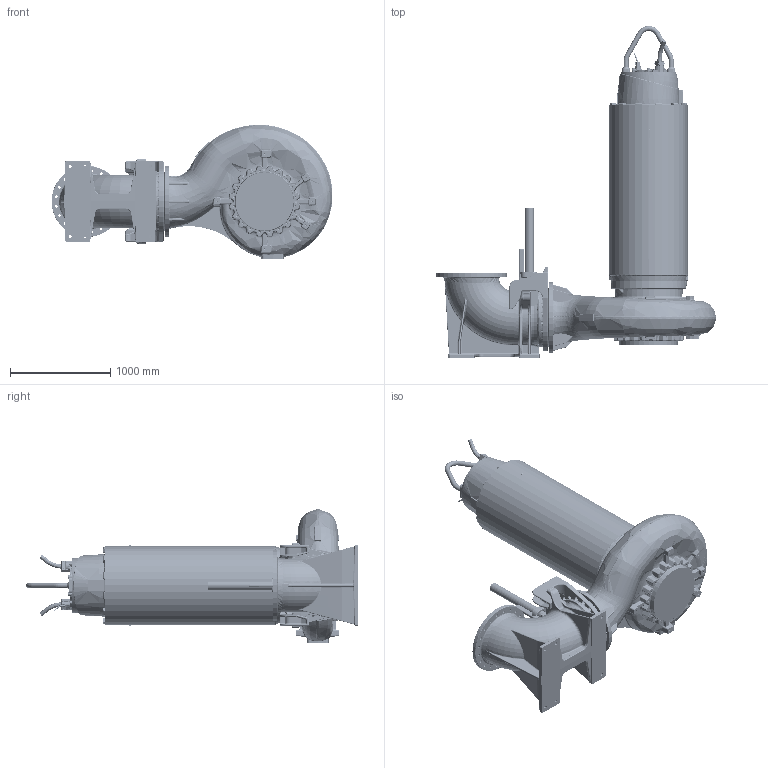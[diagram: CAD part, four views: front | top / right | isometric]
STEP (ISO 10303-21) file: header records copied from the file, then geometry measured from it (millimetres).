
FILE_DESCRIPTION (( 'STEP AP214' ), '1' );
FILE_NAME ('PE7_XFP500U-CH3_WET_E.STEP', '2017-04-03T07:23:00', ( '' ), ( '' ), 'SwSTEP 2.0', 'SolidWorks 2017', '' );
FILE_SCHEMA (( 'AUTOMOTIVE_DESIGN' ));
Length unit declared in the file: millimetre
Products named in the file (1): PE7_XFP500U-CH3_WET_E
Bounding box: 2801.98 x 3310.35 x 1338.61 mm (x, y, z)
Volume: 1881583732.5 mm3; surface area: 19110087.7 mm2
Topology: 4 solids, 24 shells, 6160 faces, 14938 edges, 8698 vertices
Faces by surface type: bspline 1725, cylinder 1579, plane 1418, torus 772, cone 469, sphere 197
Entity records: 374147 total; most frequent: CARTESIAN_POINT 176376, ORIENTED_EDGE 29274, DIRECTION 24693, EDGE_CURVE 14637, AXIS2_PLACEMENT_3D 9966, VERTEX_POINT 8693, EDGE_LOOP 6542, UNCERTAINTY_MEASURE_WITH_UNIT 6166
